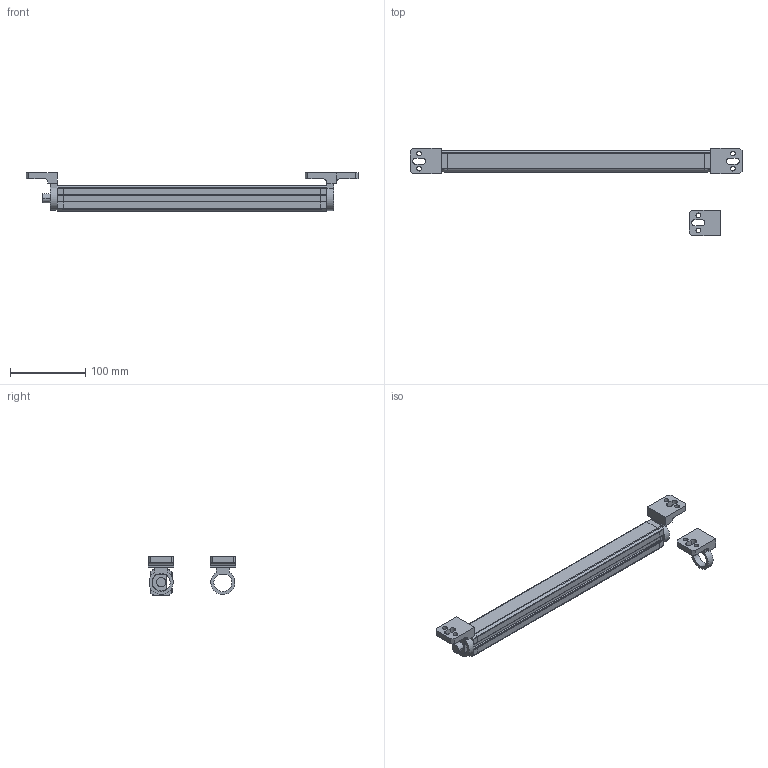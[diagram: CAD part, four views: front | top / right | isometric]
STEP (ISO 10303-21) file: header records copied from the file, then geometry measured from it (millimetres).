
FILE_DESCRIPTION((''),'2;1');
FILE_NAME('Solid_300.stp','2007-11-16T11:19:13',(''),(''),'Mechanical Desktop 2008','Mechanical Desktop 2008',', , ');
FILE_SCHEMA(('CONFIG_CONTROL_DESIGN'));
Length unit declared in the file: millimetre
Products named in the file (9): SOLID; PROFIL VOLL; KAPPE; ~KAPPE; FRONTSCHEIBE; HALTER; ~HALTER; ~~HALTER; RM_SDB
Assembly tree (9 placements, depth 2):
  SOLID
    PROFIL VOLL
    KAPPE
    ~KAPPE
    FRONTSCHEIBE
    HALTER
    ~HALTER
    ~~HALTER
    RM_SDB  x2
Bounding box: 439.97 x 115.8 x 51.28 mm (x, y, z)
Volume: 363200.1 mm3; surface area: 93859.1 mm2
Topology: 7 solids, 7 shells, 213 faces, 557 edges, 370 vertices
Faces by surface type: plane 130, cone 44, cylinder 39
Entity records: 6828 total; most frequent: DIRECTION 1165, CARTESIAN_POINT 1158, ORIENTED_EDGE 1114, EDGE_CURVE 557, AXIS2_PLACEMENT_3D 389, VECTOR 387, LINE 387, VERTEX_POINT 370
